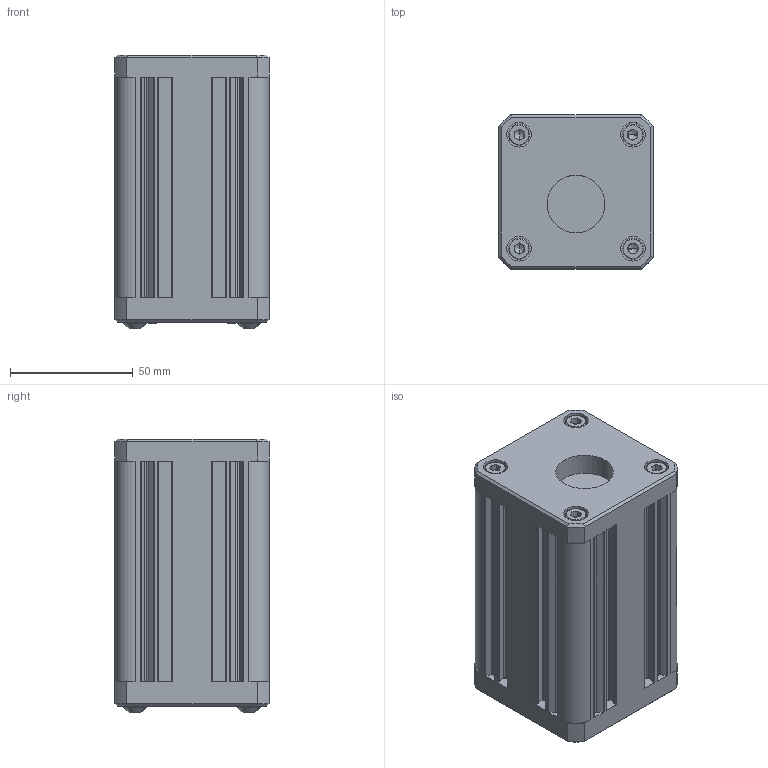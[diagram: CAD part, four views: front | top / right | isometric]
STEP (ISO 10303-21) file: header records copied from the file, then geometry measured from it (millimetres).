
FILE_DESCRIPTION (( 'STEP AP203' ), '1' );
FILE_NAME ('VNOK-A-AL-E-0050-0090.STEP', '2019-02-06T12:55:21', ( '' ), ( '' ), 'SwSTEP 2.0', 'SolidWorks 2018', '' );
FILE_SCHEMA (( 'CONFIG_CONTROL_DESIGN' ));
Length unit declared in the file: millimetre
Products named in the file (1): VNOK-A-AL-E-0050-0090
Bounding box: 63 x 63 x 111.75 mm (x, y, z)
Volume: 397896.1 mm3; surface area: 44755.1 mm2
Topology: 1 solids, 9 shells, 452 faces, 1126 edges, 714 vertices
Faces by surface type: plane 240, cylinder 154, bspline 30, cone 28
Entity records: 14301 total; most frequent: CARTESIAN_POINT 3343, DIRECTION 2336, ORIENTED_EDGE 2220, EDGE_CURVE 1110, AXIS2_PLACEMENT_3D 843, VERTEX_POINT 714, LINE 650, VECTOR 650
